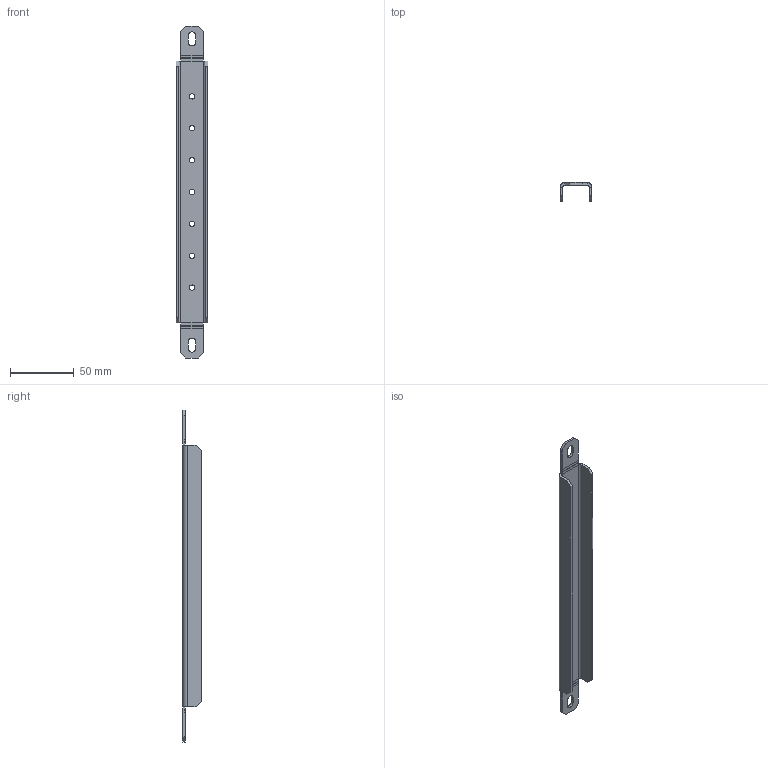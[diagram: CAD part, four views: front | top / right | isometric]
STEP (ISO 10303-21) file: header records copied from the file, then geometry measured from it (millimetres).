
FILE_DESCRIPTION (( 'STEP AP203' ), '1' );
FILE_NAME ('VB 40 G Ðåéêà äëÿ ãëóõîé äâåðè v1.STEP', '2022-08-10T15:37:52', ( '' ), ( '' ), 'SwSTEP 2.0', 'SolidWorks 2018', '' );
FILE_SCHEMA (( 'CONFIG_CONTROL_DESIGN' ));
Length unit declared in the file: millimetre
Products named in the file (1): VB 40 G Ðåéêà äëÿ ãëóõîé äâåðè v1
Bounding box: 25 x 14.5 x 260.31 mm (x, y, z)
Volume: 21056.2 mm3; surface area: 22551.5 mm2
Topology: 1 solids, 1 shells, 90 faces, 216 edges, 128 vertices
Faces by surface type: plane 66, cylinder 24
Entity records: 2657 total; most frequent: DIRECTION 446, CARTESIAN_POINT 435, ORIENTED_EDGE 432, EDGE_CURVE 216, VECTOR 168, LINE 168, AXIS2_PLACEMENT_3D 139, VERTEX_POINT 128
